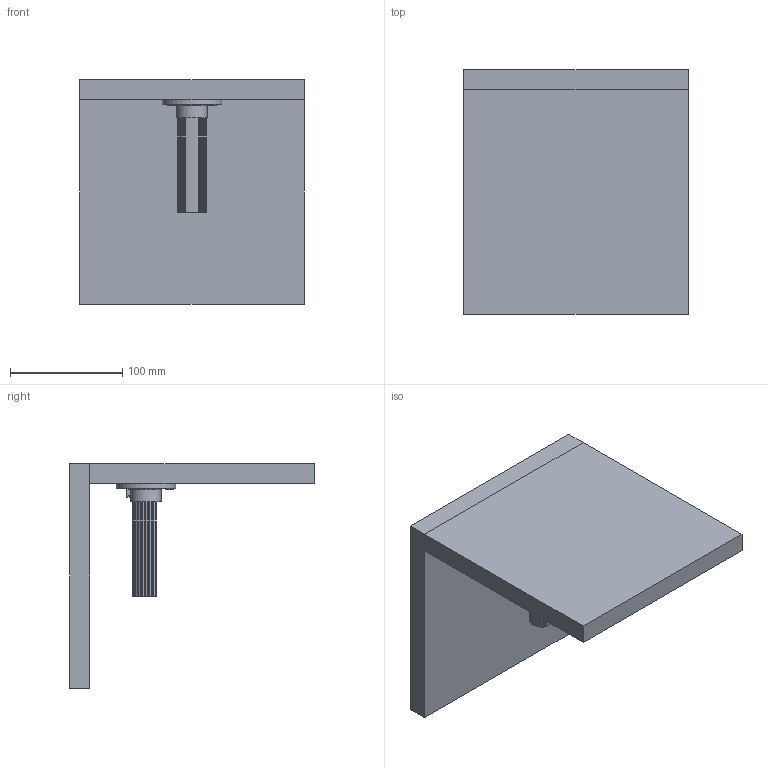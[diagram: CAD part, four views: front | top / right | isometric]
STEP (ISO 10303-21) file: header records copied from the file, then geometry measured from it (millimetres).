
FILE_DESCRIPTION(('STEP AP203'),'1');
FILE_NAME('PA-GLAXDR-AL_KPL by TS.stp','2018-01-18T07:06:51',(' '),(' '),'Spatial InterOp 3D',' ',' ');
FILE_SCHEMA(('CONFIG_CONTROL_DESIGN'));
Length unit declared in the file: millimetre
Products named in the file (1): 1
Bounding box: 200 x 218 x 200 mm (x, y, z)
Volume: 1463693.7 mm3; surface area: 217598.6 mm2
Topology: 8 solids, 8 shells, 341 faces, 926 edges, 602 vertices
Faces by surface type: plane 140, cylinder 119, cone 48, torus 18, bspline 14, sphere 2
Full cylindrical faces by diameter (mm): 3 x1, 3.5 x3, 5 x3, 7.3 x3, 8 x1, 8.006 x1, 8.094 x1, 25 x1, 27 x1, 51.036 x1, 53 x1
Entity records: 11608 total; most frequent: CARTESIAN_POINT 3174, ORIENTED_EDGE 1764, DIRECTION 1743, EDGE_CURVE 882, AXIS2_PLACEMENT_3D 663, VERTEX_POINT 595, LINE 417, VECTOR 417
